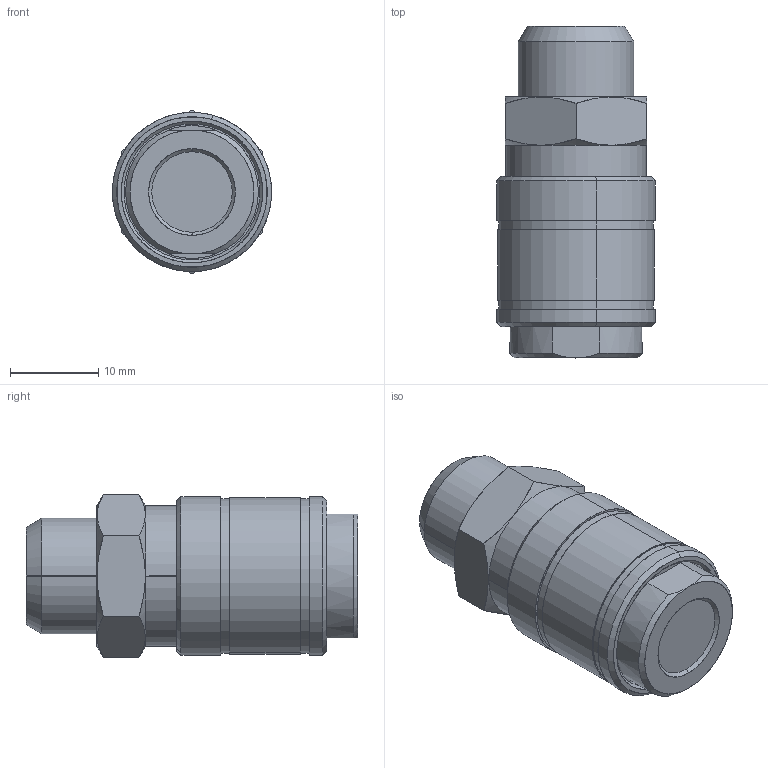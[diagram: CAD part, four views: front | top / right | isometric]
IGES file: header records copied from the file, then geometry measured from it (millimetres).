
Start section: SolidWorks IGES file using analytic representation for surfaces
Global section: file name: K:\Disegni Esecutivi\Serie 100-200\ASSIEMI\181\181_iges\0018100002A.IGS; native system: SolidWorks 2009; preprocessor: SolidWorks 2009; author: cad05; date: 090518.101408; units: millimetre
Bounding box: 17.99 x 37.5 x 18.48 mm (x, y, z)
Surface area: 5691.2 mm2 (no closed solid volume)
Topology: 0 solids, 0 shells, 76 faces, 1388 edges, 1388 vertices
Faces by surface type: revolution 52, bspline 24
